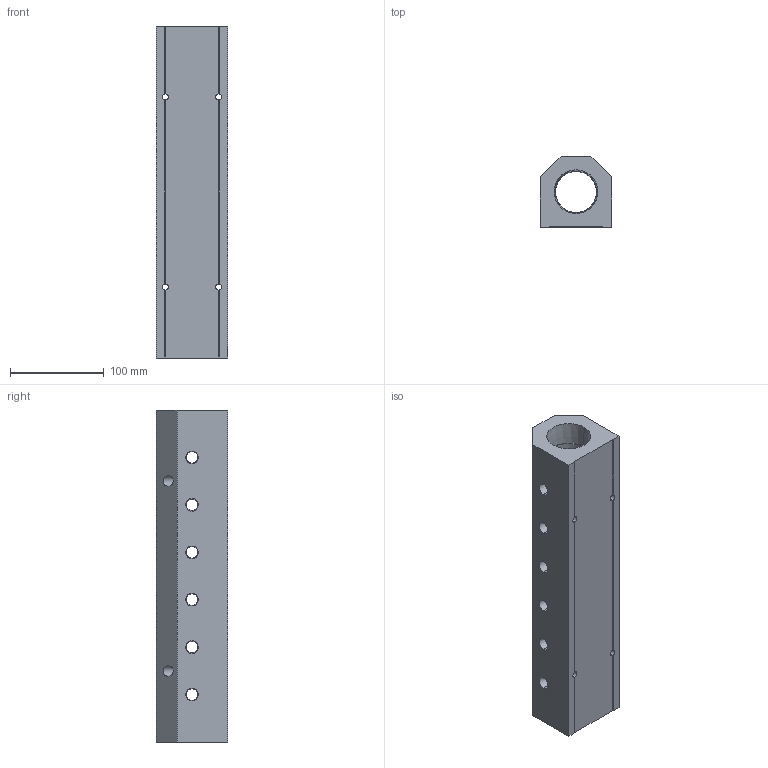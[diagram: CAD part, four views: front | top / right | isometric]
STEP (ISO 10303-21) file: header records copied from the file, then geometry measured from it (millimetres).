
FILE_DESCRIPTION (( 'STEP AP214' ), '1' );
FILE_NAME ('ALM6ACE-N4N24-355B.step', '2022-02-07T07:46:21', ( '' ), ( '' ), 'SwSTEP 2.0', 'SolidWorks 2020', '' );
FILE_SCHEMA (( 'AUTOMOTIVE_DESIGN' ));
Length unit declared in the file: millimetre
Products named in the file (1): ALM6ACE-N4N24-355B
Bounding box: 76.2 x 76.2 x 355 mm (x, y, z)
Volume: 1281614 mm3; surface area: 168543.7 mm2
Topology: 1 solids, 1 shells, 351 faces, 952 edges, 624 vertices
Faces by surface type: plane 226, bspline 67, cone 40, cylinder 18
Entity records: 20005 total; most frequent: CARTESIAN_POINT 8221, ORIENTED_EDGE 1904, DIRECTION 1408, EDGE_CURVE 952, VECTOR 694, LINE 694, VERTEX_POINT 624, EDGE_LOOP 418
